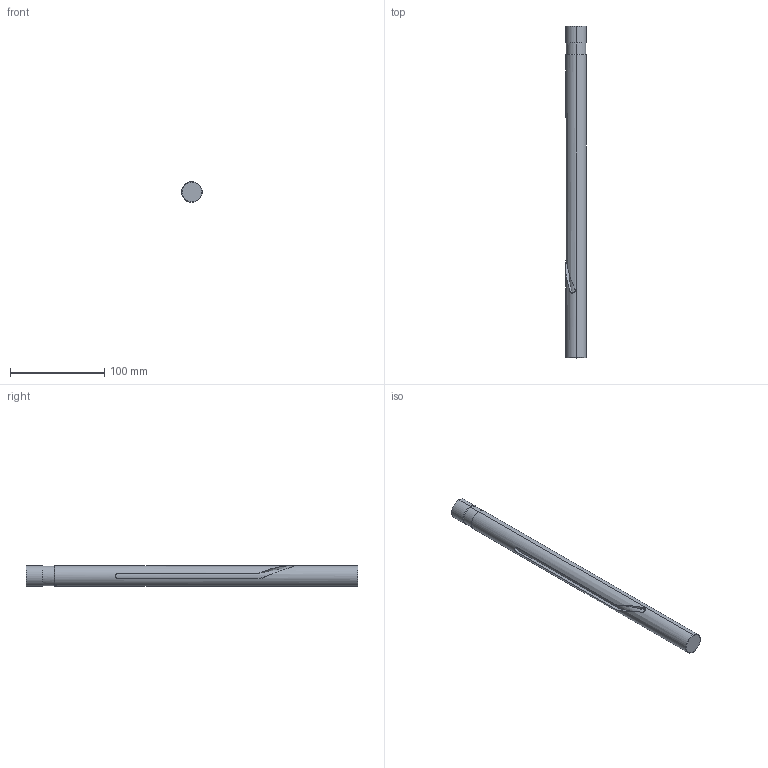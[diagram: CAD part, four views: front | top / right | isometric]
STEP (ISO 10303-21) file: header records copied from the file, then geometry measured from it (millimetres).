
FILE_DESCRIPTION (( 'STEP AP214' ), '1' );
FILE_NAME ('87.STEP', '2024-09-18T09:09:50', ( '' ), ( '' ), 'SwSTEP 2.0', 'SolidWorks 2021', '' );
FILE_SCHEMA (( 'AUTOMOTIVE_DESIGN' ));
Length unit declared in the file: millimetre
Products named in the file (1): 87
Bounding box: 22 x 352 x 22 mm (x, y, z)
Volume: 128850.7 mm3; surface area: 26610.2 mm2
Topology: 1 solids, 1 shells, 45 faces, 114 edges, 70 vertices
Faces by surface type: cone 13, cylinder 13, plane 11, bspline 8
Entity records: 2456 total; most frequent: CARTESIAN_POINT 1431, ORIENTED_EDGE 220, DIRECTION 184, EDGE_CURVE 110, AXIS2_PLACEMENT_3D 74, VERTEX_POINT 70, EDGE_LOOP 48, ADVANCED_FACE 45
